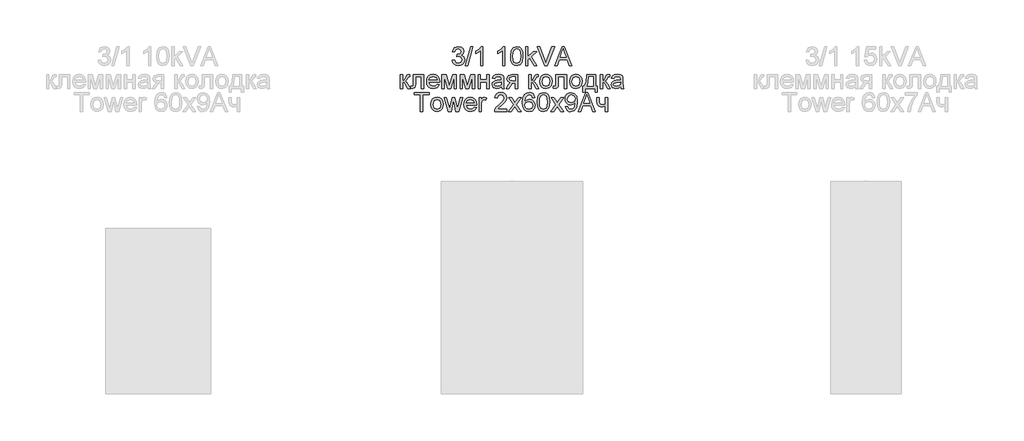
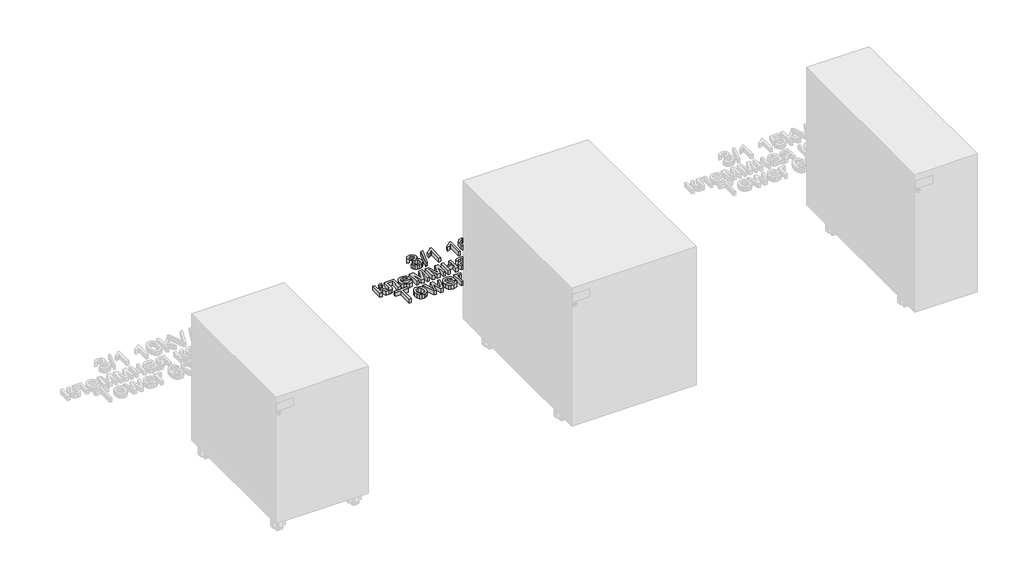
# One storey, part 36 of 74: 1 proxy.
"""IFC4 building model written with IfcOpenShell, lengths in millimetres."""

from ifc_helpers import new_model, si_unit, origin, origin_with_axes, place, context, project, spatial, polyline, outline, extrude, element, save

model = new_model("IFC4")

# Units and contexts
model_context = context("Model", 3, world=origin())
ifc_project = project(units=[si_unit("LENGTHUNIT", "METRE", prefix="MILLI")], contexts=[model_context])

# Site, building, storey
site = spatial("IfcSite", under=ifc_project)
building = spatial("IfcBuilding", under=site)
storey = spatial("IfcBuildingStorey", under=building, Name="Этаж 01", Elevation=0.0)

# Proxy
placement = place(None, origin())
element("IfcBuildingElementProxy", 1, Name="80 мм Arial", ObjectType="80 мм Arial", at=placement, inside=storey, context=model_context, shape_type="SweptSolid", body=[
    extrude(outline(polyline([(5598.3137414, -15105.2863601), (5608.3593724, -15104.0306562), (5613.9021278, -15114.6060373), (5624.2714949, -15117.8433988), (5636.475367, -15113.3895741), (5641.0076732, -15102.3629245), (5636.5146077, -15091.9739369), (5625.0955506, -15087.8634688), (5618.0518367, -15088.9622097), (5619.1701979, -15078.9165786), (5620.7790685, -15079.0343009), (5632.1785053, -15076.150106), (5637.2405615, -15067.2816974), (5633.5715518, -15059.423738), (5624.114532, -15056.3139089), (5614.5397899, -15059.4531685), (5609.6150762, -15068.8709476), (5599.5694452, -15067.6152437), (5607.7903816, -15051.8600842), (5623.7613652, -15046.2682778), (5635.8769456, -15049.0249403), (5644.3529468, -15056.5591635), (5647.2861926, -15066.6930862), (5644.5000996, -15075.9539023), (5636.2595429, -15082.6052088), (5647.2077111, -15089.4723394), (5651.0533042, -15102.5395078), (5649.1305076, -15112.330074), (5643.3621179, -15120.5117696), (5634.6555774, -15126.0447148), (5623.9183282, -15127.8890298), (5614.2062435, -15126.3144949), (5606.2992332, -15121.5908901), (5600.8006236, -15114.3656877), (5598.3137414, -15105.2863601)])), origin_with_axes(), (0.0, 0.0, 1.0), 20.0),
    extrude(outline(polyline([(5654.8204158, -15126.633326), (5677.4230856, -15046.2682778), (5686.487698, -15046.2682778), (5663.8850282, -15126.633326), (5654.8204158, -15126.633326)])), origin_with_axes(), (0.0, 0.0, 1.0), 20.0),
    extrude(outline(polyline([(5728.9069446, -15126.633326), (5718.8613135, -15126.633326), (5718.8613135, -15064.0050951), (5709.3454326, -15070.783934), (5698.7700515, -15075.8558004), (5698.7700515, -15066.3595399), (5713.4951415, -15056.9613812), (5722.4322214, -15046.2682778), (5728.9069446, -15046.2682778), (5728.9069446, -15126.633326)])), origin_with_axes(), (0.0, 0.0, 1.0), 20.0),
    extrude(outline(polyline([(5821.8290314, -15126.633326), (5811.7834004, -15126.633326), (5811.7834004, -15064.0050951), (5802.2675195, -15070.783934), (5791.6921384, -15075.8558004), (5791.6921384, -15066.3595399), (5806.4172284, -15056.9613812), (5815.3543083, -15046.2682778), (5821.8290314, -15046.2682778), (5821.8290314, -15126.633326)])), origin_with_axes(), (0.0, 0.0, 1.0), 20.0),
    extrude(outline(polyline([(5845.6874051, -15087.0982742), (5848.6402712, -15063.9756645), (5857.410578, -15050.643621), (5872.0571865, -15046.2682778), (5883.7901696, -15048.8581671), (5891.8933837, -15056.323719), (5896.6022732, -15068.2136651), (5898.4269679, -15087.0982742), (5895.5035323, -15110.122782), (5886.7626561, -15123.4842561), (5872.0571865, -15127.8890298), (5861.619148, -15125.9760435), (5853.6925173, -15120.2370843), (5847.6886832, -15106.6450709), (5845.6874051, -15087.0982742)]), holes=[polyline([(5855.7330361, -15087.0786538), (5856.9102585, -15102.8804118), (5860.4419257, -15112.0259582), (5872.0571865, -15117.8433988), (5883.6724474, -15112.0063378), (5887.2041145, -15102.8558863), (5888.3813369, -15087.0786538), (5887.2433553, -15071.6325151), (5883.8294104, -15062.4158449), (5878.5809606, -15057.8393929), (5871.9394643, -15056.3139089), (5860.5988886, -15061.6898911), (5856.9494992, -15071.4804572), (5855.7330361, -15087.0786538)])]), origin_with_axes(), (0.0, 0.0, 1.0), 20.0),
    extrude(outline(polyline([(5909.7283028, -15126.633326), (5909.7283028, -15046.2682778), (5919.7739338, -15046.2682778), (5919.7739338, -15089.452719), (5942.2981221, -15067.6152437), (5956.1893463, -15067.6152437), (5933.3904728, -15089.7274042), (5957.4450501, -15126.633326), (5945.712067, -15126.633326), (5926.1897958, -15096.712257), (5919.7739338, -15102.9319153), (5919.7739338, -15126.633326), (5909.7283028, -15126.633326)])), origin_with_axes(), (0.0, 0.0, 1.0), 20.0),
    extrude(outline(polyline([(6032.2182919, -15126.633326), (6064.2976019, -15046.2682778), (6072.8520846, -15046.2682778), (6104.9313946, -15126.633326), (6094.3167727, -15126.633326), (6085.1148177, -15101.5192484), (6052.0152484, -15101.5192484), (6042.8329138, -15126.633326), (6032.2182919, -15126.633326)]), holes=[polyline([(6055.7038785, -15091.4736174), (6081.445808, -15091.4736174), (6074.2058903, -15071.7159017), (6068.5748432, -15056.3139089), (6063.5716481, -15069.9893089), (6055.7038785, -15091.4736174)])]), origin_with_axes(), (0.0, 0.0, 1.0), 20.0),
    extrude(outline(polyline([(5991.2313326, -15126.633326), (5959.2501245, -15046.2682778), (5970.0020889, -15046.2682778), (5991.4079159, -15104.1679988), (5995.7440184, -15117.2155469), (6000.0212597, -15104.1679988), (6021.4859479, -15046.2682778), (6032.2379123, -15046.2682778), (6001.6105099, -15126.633326), (5991.2313326, -15126.633326)])), origin_with_axes(), (0.0, 0.0, 1.0), 20.0),
    extrude(outline(polyline([(5433.1886815, -15165.195098), (5478.3940211, -15165.195098), (5478.3940211, -15224.1543191), (5468.3483901, -15224.1543191), (5468.3483901, -15175.240729), (5443.2343126, -15175.240729), (5443.2343126, -15203.3959644), (5442.5574097, -15216.3846514), (5438.839349, -15221.8685457), (5430.0494219, -15224.2131802), (5421.8873467, -15223.7030505), (5421.8873467, -15214.1675492), (5426.3804121, -15214.1675492), (5430.9225285, -15213.5495075), (5432.737413, -15211.5874702), (5433.1886815, -15202.8269736), (5433.1886815, -15165.195098)])), origin_with_axes(), (0.0, 0.0, 1.0), 20.0),
    extrude(outline(polyline([(5379.1934148, -15165.195098), (5389.2390459, -15165.195098), (5389.2390459, -15190.3091756), (5395.9688338, -15188.5041012), (5401.4821587, -15177.9875813), (5406.0635158, -15168.9131587), (5410.1053126, -15165.9602926), (5417.4531423, -15165.195098), (5419.3759389, -15165.195098), (5419.3759389, -15175.2995902), (5416.6683274, -15175.240729), (5411.7632341, -15176.3002292), (5408.3100485, -15182.9122949), (5404.2584414, -15190.0639209), (5398.5783434, -15193.5661575), (5404.9157239, -15197.4755168), (5411.1353822, -15205.7111684), (5421.8873467, -15224.2131802), (5410.4682895, -15224.2131802), (5399.9321492, -15206.1035759), (5394.6346485, -15198.4418202), (5389.2390459, -15196.5876949), (5389.2390459, -15224.2131802), (5379.1934148, -15224.2131802), (5379.1934148, -15165.195098)])), origin_with_axes(), (0.0, 0.0, 1.0), 20.0),
    extrude(outline(polyline([(5534.7829733, -15206.633326), (5544.6324006, -15207.8890298), (5535.4206355, -15220.8580964), (5518.2626192, -15225.4688841), (5506.4756801, -15223.4798688), (5497.4061626, -15217.5128228), (5491.6230577, -15207.9552486), (5489.695356, -15195.1946485), (5491.642678, -15182.0048527), (5497.4846441, -15172.1407101), (5506.4315342, -15165.9897231), (5517.6936284, -15163.9393941), (5528.6050084, -15165.984818), (5537.3238116, -15172.1210897), (5543.0406979, -15181.9656119), (5544.9463266, -15195.1357873), (5544.8874655, -15197.8433988), (5499.740987, -15197.8433988), (5505.5191869, -15210.8909469), (5518.4588229, -15215.4232531), (5528.3082502, -15213.3238732), (5534.7829733, -15206.633326)]), holes=[polyline([(5499.740987, -15187.7977678), (5534.9006956, -15187.7977678), (5530.8785191, -15178.6939147), (5517.6543876, -15173.9850252), (5505.2837424, -15177.7423266), (5499.740987, -15187.7977678)])]), origin_with_axes(), (0.0, 0.0, 1.0), 20.0),
    extrude(outline(polyline([(5554.9919576, -15165.195098), (5572.2775063, -15165.195098), (5585.5997396, -15212.4409564), (5599.9618527, -15165.195098), (5616.5214476, -15165.195098), (5616.5214476, -15224.2131802), (5606.4758166, -15224.2131802), (5606.4758166, -15176.6926366), (5592.035222, -15224.2131802), (5578.8503313, -15224.2131802), (5565.0375886, -15174.4166734), (5565.0375886, -15224.2131802), (5554.9919576, -15224.2131802), (5554.9919576, -15165.195098)])), origin_with_axes(), (0.0, 0.0, 1.0), 20.0),
    extrude(outline(polyline([(5631.5898941, -15165.195098), (5648.8754428, -15165.195098), (5662.1976761, -15212.4409564), (5676.5597892, -15165.195098), (5693.1193841, -15165.195098), (5693.1193841, -15224.2131802), (5683.073753, -15224.2131802), (5683.073753, -15176.6926366), (5668.6331585, -15224.2131802), (5655.4482678, -15224.2131802), (5641.6355251, -15174.4166734), (5641.6355251, -15224.2131802), (5631.5898941, -15224.2131802), (5631.5898941, -15165.195098)])), origin_with_axes(), (0.0, 0.0, 1.0), 20.0),
    extrude(outline(polyline([(5708.1878306, -15165.195098), (5718.2334616, -15165.195098), (5718.2334616, -15187.7977678), (5744.603243, -15187.7977678), (5744.603243, -15165.195098), (5754.648874, -15165.195098), (5754.648874, -15224.2131802), (5744.603243, -15224.2131802), (5744.603243, -15197.8433988), (5718.2334616, -15197.8433988), (5718.2334616, -15224.2131802), (5708.1878306, -15224.2131802), (5708.1878306, -15165.195098)])), origin_with_axes(), (0.0, 0.0, 1.0), 20.0),
    extrude(outline(polyline([(5807.3884369, -15216.678957), (5797.6469216, -15223.4872264), (5786.885147, -15225.4688841), (5772.2973996, -15220.7011335), (5767.2059128, -15208.5168818), (5769.1287094, -15200.5706307), (5774.1809554, -15194.802241), (5781.2148592, -15191.5060183), (5789.9066844, -15189.9952496), (5807.3295757, -15186.5420639), (5807.3884369, -15184.3053414), (5804.6219643, -15176.8888404), (5793.5168331, -15173.9850252), (5783.3534798, -15175.9176319), (5778.5072477, -15182.7749523), (5768.4616167, -15181.5192484), (5772.8075293, -15171.7090619), (5781.5582157, -15165.9602926), (5794.8117777, -15163.9393941), (5806.9862192, -15165.7248481), (5813.86316, -15170.2081033), (5816.9435585, -15177.026183), (5817.4340679, -15185.8161101), (5817.4340679, -15198.3142878), (5817.9441976, -15215.7666096), (5819.9454756, -15224.2131802), (5809.8998446, -15224.2131802), (5807.3884369, -15216.678957)]), holes=[polyline([(5807.3884369, -15196.5876949), (5791.1820087, -15199.6680935), (5782.5392344, -15201.2965845), (5778.6249699, -15203.9453348), (5777.2515438, -15207.8105483), (5780.2436507, -15213.2453917), (5789.0237677, -15215.4232531), (5799.1871209, -15213.0197574), (5805.7403255, -15207.2023168), (5807.3295757, -15199.432649), (5807.3884369, -15196.5876949)])]), origin_with_axes(), (0.0, 0.0, 1.0), 20.0),
    extrude(outline(polyline([(5876.4521501, -15165.195098), (5876.4521501, -15224.2131802), (5866.4065191, -15224.2131802), (5866.4065191, -15201.6105105), (5860.932435, -15201.6105105), (5853.4766932, -15202.8858347), (5846.47222, -15211.4599377), (5838.4671078, -15224.2131802), (5826.8518469, -15224.2131802), (5836.9367187, -15208.0852336), (5845.4912014, -15199.7269546), (5833.797459, -15193.6250186), (5829.9911066, -15182.2452022), (5835.1905055, -15169.9236079), (5850.2393317, -15165.195098), (5876.4521501, -15165.195098)]), holes=[polyline([(5866.4065191, -15175.240729), (5853.1627672, -15175.240729), (5842.4402334, -15177.5657432), (5840.0367377, -15183.0103968), (5843.578215, -15189.4949301), (5856.1254436, -15191.5648794), (5866.4065191, -15191.5648794), (5866.4065191, -15175.240729)])]), origin_with_axes(), (0.0, 0.0, 1.0), 20.0),
    extrude(outline(polyline([(5922.9131935, -15165.195098), (5932.9588245, -15165.195098), (5932.9588245, -15190.3091756), (5939.6886125, -15188.5041012), (5945.2019373, -15177.9875813), (5949.7832945, -15168.9131587), (5953.8250913, -15165.9602926), (5961.172921, -15165.195098), (5963.0957176, -15165.195098), (5963.0957176, -15175.2995902), (5960.3881061, -15175.240729), (5955.4830128, -15176.3002292), (5952.0298272, -15182.9122949), (5947.9782201, -15190.0639209), (5942.2981221, -15193.5661575), (5948.6355026, -15197.4755168), (5954.8551609, -15205.7111684), (5965.6071253, -15224.2131802), (5954.1880682, -15224.2131802), (5943.6519279, -15206.1035759), (5938.3544271, -15198.4418202), (5932.9588245, -15196.5876949), (5932.9588245, -15224.2131802), (5922.9131935, -15224.2131802), (5922.9131935, -15165.195098)])), origin_with_axes(), (0.0, 0.0, 1.0), 20.0),
    extrude(outline(polyline([(5969.374237, -15194.7041391), (5971.5471933, -15180.4744636), (5978.0660622, -15170.4729784), (5986.1202254, -15165.5727902), (5995.7636388, -15163.9393941), (6006.3169469, -15165.9284095), (6014.7463497, -15171.8954554), (6020.2719373, -15181.3696431), (6022.1137998, -15193.8800835), (6018.8568179, -15211.7542433), (6009.3703675, -15221.8685457), (5995.7636388, -15225.4688841), (5985.0827982, -15223.4872264), (5976.6632056, -15217.5422534), (5971.1964791, -15207.8694095), (5969.374237, -15194.7041391)]), holes=[polyline([(5979.419868, -15194.6845188), (5984.0698964, -15210.2532848), (5995.7636388, -15215.4232531), (6007.4181404, -15210.2238542), (6012.0681688, -15194.3705928), (6007.3887098, -15179.1549935), (5995.7636388, -15173.9850252), (5984.0698964, -15179.1353731), (5979.419868, -15194.6845188)])]), origin_with_axes(), (0.0, 0.0, 1.0), 20.0),
    extrude(outline(polyline([(6038.4379502, -15165.195098), (6083.6432898, -15165.195098), (6083.6432898, -15224.1543191), (6073.5976588, -15224.1543191), (6073.5976588, -15175.240729), (6048.4835812, -15175.240729), (6048.4835812, -15203.3959644), (6047.8066783, -15216.3846514), (6044.0886176, -15221.8685457), (6035.2986905, -15224.2131802), (6027.1366153, -15223.7030505), (6027.1366153, -15214.1675492), (6031.6296807, -15214.1675492), (6036.1717971, -15213.5495075), (6037.9866816, -15211.5874702), (6038.4379502, -15202.8269736), (6038.4379502, -15165.195098)])), origin_with_axes(), (0.0, 0.0, 1.0), 20.0),
    extrude(outline(polyline([(6096.2003285, -15194.7041391), (6098.3732849, -15180.4744636), (6104.8921538, -15170.4729784), (6112.946317, -15165.5727902), (6122.5897303, -15163.9393941), (6133.1430385, -15165.9284095), (6141.5724413, -15171.8954554), (6147.0980288, -15181.3696431), (6148.9398914, -15193.8800835), (6145.6829094, -15211.7542433), (6136.1964591, -15221.8685457), (6122.5897303, -15225.4688841), (6111.9088897, -15223.4872264), (6103.4892971, -15217.5422534), (6098.0225707, -15207.8694095), (6096.2003285, -15194.7041391)]), holes=[polyline([(6106.2459596, -15194.6845188), (6110.895988, -15210.2532848), (6122.5897303, -15215.4232531), (6134.2442319, -15210.2238542), (6138.8942603, -15194.3705928), (6134.2148014, -15179.1549935), (6122.5897303, -15173.9850252), (6110.895988, -15179.1353731), (6106.2459596, -15194.6845188)])]), origin_with_axes(), (0.0, 0.0, 1.0), 20.0),
    extrude(outline(polyline([(6169.0311534, -15165.195098), (6206.7022697, -15165.195098), (6206.7022697, -15214.1675492), (6214.236493, -15214.1675492), (6214.236493, -15240.5373306), (6204.1908619, -15240.5373306), (6204.1908619, -15224.2131802), (6162.752634, -15224.2131802), (6162.752634, -15240.5373306), (6152.707003, -15240.5373306), (6152.707003, -15214.1675492), (6158.9855224, -15214.1675492), (6166.7453799, -15195.0082549), (6169.0311534, -15165.195098)]), holes=[polyline([(6177.8210805, -15175.240729), (6175.4666358, -15198.1278942), (6170.2868573, -15214.1675492), (6196.6566387, -15214.1675492), (6196.6566387, -15175.240729), (6177.8210805, -15175.240729)])]), origin_with_axes(), (0.0, 0.0, 1.0), 20.0),
    extrude(outline(polyline([(6225.5378279, -15165.195098), (6235.5834589, -15165.195098), (6235.5834589, -15190.3091756), (6242.3132468, -15188.5041012), (6247.8265717, -15177.9875813), (6252.4079288, -15168.9131587), (6256.4497256, -15165.9602926), (6263.7975554, -15165.195098), (6265.7203519, -15165.195098), (6265.7203519, -15175.2995902), (6263.0127404, -15175.240729), (6258.1076472, -15176.3002292), (6254.6544615, -15182.9122949), (6250.6028545, -15190.0639209), (6244.9227565, -15193.5661575), (6251.260137, -15197.4755168), (6257.4797952, -15205.7111684), (6268.2317597, -15224.2131802), (6256.8127025, -15224.2131802), (6246.2765622, -15206.1035759), (6240.9790615, -15198.4418202), (6235.5834589, -15196.5876949), (6235.5834589, -15224.2131802), (6225.5378279, -15224.2131802), (6225.5378279, -15165.195098)])), origin_with_axes(), (0.0, 0.0, 1.0), 20.0),
    extrude(outline(polyline([(6312.1813954, -15216.678957), (6302.4398801, -15223.4872264), (6291.6781055, -15225.4688841), (6277.0903581, -15220.7011335), (6271.9988713, -15208.5168818), (6273.9216679, -15200.5706307), (6278.9739139, -15194.802241), (6286.0078177, -15191.5060183), (6294.6996429, -15189.9952496), (6312.1225342, -15186.5420639), (6312.1813954, -15184.3053414), (6309.4149228, -15176.8888404), (6298.3097916, -15173.9850252), (6288.1464383, -15175.9176319), (6283.3002062, -15182.7749523), (6273.2545752, -15181.5192484), (6277.6004878, -15171.7090619), (6286.3511742, -15165.9602926), (6299.6047362, -15163.9393941), (6311.7791777, -15165.7248481), (6318.6561185, -15170.2081033), (6321.736517, -15177.026183), (6322.2270264, -15185.8161101), (6322.2270264, -15198.3142878), (6322.7371561, -15215.7666096), (6324.7384341, -15224.2131802), (6314.6928031, -15224.2131802), (6312.1813954, -15216.678957)]), holes=[polyline([(6312.1813954, -15196.5876949), (6295.9749672, -15199.6680935), (6287.3321929, -15201.2965845), (6283.4179284, -15203.9453348), (6282.0445023, -15207.8105483), (6285.0366092, -15213.2453917), (6293.8167262, -15215.4232531), (6303.9800794, -15213.0197574), (6310.533284, -15207.2023168), (6312.1225342, -15199.432649), (6312.1813954, -15196.5876949)])]), origin_with_axes(), (0.0, 0.0, 1.0), 20.0),
    extrude(outline(polyline([(5463.9534265, -15321.7930345), (5463.9534265, -15251.4736174), (5437.5836451, -15251.4736174), (5437.5836451, -15241.4279864), (5500.368839, -15241.4279864), (5500.368839, -15251.4736174), (5473.9990575, -15251.4736174), (5473.9990575, -15321.7930345), (5463.9534265, -15321.7930345)])), origin_with_axes(), (0.0, 0.0, 1.0), 20.0),
    extrude(outline(polyline([(5507.9030622, -15292.2839934), (5510.0760185, -15278.0543178), (5516.5948875, -15268.0528327), (5524.6490506, -15263.1526445), (5534.292464, -15261.5192484), (5544.8457722, -15263.5082637), (5553.275175, -15269.4753097), (5558.8007625, -15278.9494974), (5560.6426251, -15291.4599377), (5557.3856431, -15309.3340976), (5547.8991927, -15319.4483999), (5534.292464, -15323.0487384), (5523.6116234, -15321.0670807), (5515.1920308, -15315.1221077), (5509.7253044, -15305.4492637), (5507.9030622, -15292.2839934)]), holes=[polyline([(5517.9486932, -15292.264373), (5522.5987217, -15307.8331391), (5534.292464, -15313.0031074), (5545.9469656, -15307.8037085), (5550.596994, -15291.9504471), (5545.9175351, -15276.7348477), (5534.292464, -15271.5648794), (5522.5987217, -15276.7152274), (5517.9486932, -15292.264373)])]), origin_with_axes(), (0.0, 0.0, 1.0), 20.0),
    extrude(outline(polyline([(5581.7345261, -15321.7930345), (5563.7818847, -15262.7749523), (5574.2199232, -15262.7749523), (5584.4028968, -15297.208707), (5587.4440547, -15309.510681), (5589.9358421, -15297.6599756), (5598.0390561, -15262.7749523), (5610.0074837, -15262.7749523), (5618.071457, -15297.5618738), (5620.2885592, -15308.2942178), (5623.4670596, -15296.9732626), (5633.6696536, -15262.7749523), (5644.1469329, -15262.7749523), (5626.0569489, -15321.7930345), (5613.911938, -15321.7930345), (5606.2011313, -15287.1826964), (5603.9644088, -15276.3914912), (5594.0168797, -15321.7930345), (5581.7345261, -15321.7930345)])), origin_with_axes(), (0.0, 0.0, 1.0), 20.0),
    extrude(outline(polyline([(5692.3738099, -15304.2131802), (5702.2232372, -15305.4688841), (5693.011472, -15318.4379507), (5675.8534558, -15323.0487384), (5664.0665166, -15321.0597231), (5654.9969992, -15315.0926771), (5649.2138942, -15305.5351029), (5647.2861926, -15292.7745027), (5649.2335146, -15279.5847069), (5655.0754807, -15269.7205644), (5664.0223708, -15263.5695774), (5675.2844649, -15261.5192484), (5686.1958449, -15263.5646723), (5694.9146482, -15269.700944), (5700.6315344, -15279.5454662), (5702.5371631, -15292.7156416), (5702.478302, -15295.4232531), (5657.3318236, -15295.4232531), (5663.1100234, -15308.4708012), (5676.0496595, -15313.0031074), (5685.8990868, -15310.9037275), (5692.3738099, -15304.2131802)]), holes=[polyline([(5657.3318236, -15285.3776221), (5692.4915321, -15285.3776221), (5688.4693556, -15276.273769), (5675.2452242, -15271.5648794), (5662.874579, -15275.3221809), (5657.3318236, -15285.3776221)])]), origin_with_axes(), (0.0, 0.0, 1.0), 20.0),
    extrude(outline(polyline([(5712.5827942, -15321.7930345), (5712.5827942, -15262.7749523), (5721.3727213, -15262.7749523), (5721.3727213, -15271.5060183), (5727.6119999, -15263.4616654), (5733.8905193, -15261.5192484), (5743.9753911, -15264.6192674), (5740.6203073, -15273.6250186), (5733.556973, -15271.5648794), (5727.876875, -15273.5465371), (5724.2569161, -15279.0402416), (5722.6284252, -15290.7732247), (5722.6284252, -15321.7930345), (5712.5827942, -15321.7930345)])), origin_with_axes(), (0.0, 0.0, 1.0), 20.0),
    extrude(outline(polyline([(5830.6189586, -15311.7474035), (5830.6189586, -15321.7930345), (5777.8793957, -15321.7930345), (5778.9585163, -15314.8670428), (5785.0604523, -15304.2033701), (5797.6371114, -15292.5586786), (5814.9815212, -15275.8225004), (5819.3176237, -15264.442684), (5815.2267759, -15255.2309189), (5804.5434828, -15251.4736174), (5793.408921, -15255.1426272), (5789.1807306, -15265.2863601), (5779.1350996, -15264.0306562), (5781.5704784, -15254.3136664), (5786.8360961, -15247.2159965), (5794.6572673, -15242.8749889), (5804.7593069, -15241.4279864), (5814.9349228, -15243.036857), (5822.7413788, -15247.8634688), (5827.7077857, -15255.0739559), (5829.3632547, -15263.8344524), (5827.5778008, -15273.3601436), (5821.6426379, -15283.2095709), (5807.2510942, -15296.9732626), (5795.6946945, -15306.6362963), (5791.1623883, -15311.7474035), (5830.6189586, -15311.7474035)])), origin_with_axes(), (0.0, 0.0, 1.0), 20.0),
    extrude(outline(polyline([(5836.897478, -15321.7930345), (5858.3621661, -15292.1270304), (5838.1531818, -15262.7749523), (5850.2393317, -15262.7749523), (5859.9906571, -15276.9016209), (5864.5425836, -15283.5725478), (5868.4862786, -15278.118084), (5879.5914098, -15262.7749523), (5891.6775596, -15262.7749523), (5870.4483159, -15292.1270304), (5890.8927447, -15321.7930345), (5878.8065949, -15321.7930345), (5866.5046209, -15303.9581154), (5864.248278, -15300.7011335), (5848.9836278, -15321.7930345), (5836.897478, -15321.7930345)])), origin_with_axes(), (0.0, 0.0, 1.0), 20.0),
    extrude(outline(polyline([(5948.655123, -15262.7749523), (5938.609492, -15264.0306562), (5934.8031396, -15255.6527569), (5924.7378882, -15251.4736174), (5915.6732759, -15253.9065437), (5908.8159555, -15263.0398273), (5905.9611912, -15280.9434178), (5914.8197896, -15272.9284954), (5925.7973884, -15270.3091756), (5935.0778248, -15272.0995346), (5942.8671129, -15277.4706117), (5948.1498984, -15285.6768328), (5949.9108269, -15295.9726235), (5946.5949838, -15309.8344171), (5937.4715103, -15319.6446037), (5924.30624, -15323.0487384), (5912.9092558, -15320.7923955), (5903.8323807, -15314.0233668), (5897.8947653, -15302.0745596), (5895.9155602, -15284.2788812), (5898.113042, -15264.2710057), (5904.7054873, -15250.5907006), (5913.7063335, -15243.7186649), (5925.3657402, -15241.4279864), (5934.1801928, -15242.8455583), (5941.238622, -15247.0982742), (5948.655123, -15262.7749523)]), holes=[polyline([(5905.9611912, -15295.8156606), (5908.2862054, -15304.517296), (5914.4666229, -15310.8350561), (5923.5214251, -15313.0031074), (5935.3623202, -15308.5100419), (5939.8651959, -15296.3061699), (5935.4211814, -15284.6222377), (5923.1093973, -15280.3548066), (5910.9545761, -15284.6222377), (5905.9611912, -15295.8156606)])]), origin_with_axes(), (0.0, 0.0, 1.0), 20.0),
    extrude(outline(polyline([(5958.700754, -15282.2579828), (5961.6536202, -15259.1353731), (5970.4239269, -15245.8033296), (5985.0705354, -15241.4279864), (5996.8035185, -15244.0178756), (6004.9067326, -15251.4834276), (6009.6156222, -15263.3733737), (6011.4403168, -15282.2579828), (6008.5168813, -15305.2824906), (5999.7760051, -15318.6439646), (5985.0705354, -15323.0487384), (5974.632497, -15321.135752), (5966.7058662, -15315.3967929), (5960.7020321, -15301.8047794), (5958.700754, -15282.2579828)]), holes=[polyline([(5968.746385, -15282.2383624), (5969.9236074, -15298.0401204), (5973.4552746, -15307.1856668), (5985.0705354, -15313.0031074), (5996.6857963, -15307.1660464), (6000.2174634, -15298.0155949), (6001.3946858, -15282.2383624), (6000.2567042, -15266.7922237), (5996.8427593, -15257.5755534), (5991.5943095, -15252.9991014), (5984.9528132, -15251.4736174), (5973.6122376, -15256.8495996), (5969.9628482, -15266.6401658), (5968.746385, -15282.2383624)])]), origin_with_axes(), (0.0, 0.0, 1.0), 20.0),
    extrude(outline(polyline([(6016.4631324, -15321.7930345), (6037.9278205, -15292.1270304), (6017.7188362, -15262.7749523), (6029.804986, -15262.7749523), (6039.5563115, -15276.9016209), (6044.108238, -15283.5725478), (6048.051933, -15278.118084), (6059.1570642, -15262.7749523), (6071.243214, -15262.7749523), (6050.0139703, -15292.1270304), (6070.4583991, -15321.7930345), (6058.3722492, -15321.7930345), (6046.0702753, -15303.9581154), (6043.8139324, -15300.7011335), (6028.5492822, -15321.7930345), (6016.4631324, -15321.7930345)])), origin_with_axes(), (0.0, 0.0, 1.0), 20.0),
    extrude(outline(polyline([(6077.9926223, -15301.7017725), (6088.0382533, -15300.4460686), (6092.5509391, -15310.0306209), (6101.1054218, -15313.0031074), (6109.2380664, -15311.090121), (6114.7513913, -15305.9790138), (6118.0378038, -15297.2479478), (6119.4897114, -15285.5934462), (6119.4308503, -15283.6314089), (6111.3963075, -15291.2441136), (6100.379468, -15294.1675492), (6091.2192063, -15292.3820953), (6083.5942388, -15287.0257334), (6078.4512485, -15278.7508411), (6076.7369184, -15268.2097956), (6078.5346351, -15257.3204886), (6083.9277852, -15248.7856263), (6092.0285467, -15243.2673964), (6101.9490978, -15241.4279864), (6116.26216, -15245.6267462), (6126.1115873, -15257.5951738), (6129.4764813, -15280.0801214), (6126.1213975, -15304.4780553), (6116.1444378, -15318.3006081), (6100.6345329, -15323.0487384), (6092.0457145, -15321.6483343), (6085.1932992, -15317.4471219), (6077.9926223, -15301.7017725)]), holes=[polyline([(6119.4308503, -15267.9743512), (6115.0947478, -15255.9274421), (6103.5775888, -15251.4736174), (6091.491439, -15256.2707986), (6086.7825495, -15268.700305), (6091.2363741, -15279.8348667), (6103.3029036, -15284.1219182), (6114.8887339, -15279.8348667), (6119.4308503, -15267.9743512)])]), origin_with_axes(), (0.0, 0.0, 1.0), 20.0),
    extrude(outline(polyline([(6132.6746021, -15321.7930345), (6164.7539121, -15241.4279864), (6173.3083947, -15241.4279864), (6205.3877047, -15321.7930345), (6194.7730829, -15321.7930345), (6185.5711279, -15296.678957), (6152.4715585, -15296.678957), (6143.2892239, -15321.7930345), (6132.6746021, -15321.7930345)]), holes=[polyline([(6156.1601887, -15286.633326), (6181.9021181, -15286.633326), (6174.6622005, -15266.8756103), (6169.0311534, -15251.4736174), (6164.0279583, -15265.1490174), (6156.1601887, -15286.633326)])]), origin_with_axes(), (0.0, 0.0, 1.0), 20.0),
    extrude(outline(polyline([(6211.0972333, -15262.7749523), (6221.1428643, -15262.7749523), (6221.1428643, -15274.0959076), (6221.9571098, -15284.7105294), (6225.8713742, -15290.4592987), (6233.6410419, -15292.9118453), (6247.5126457, -15289.8706875), (6247.5126457, -15262.7749523), (6257.5582767, -15262.7749523), (6257.5582767, -15321.7930345), (6247.5126457, -15321.7930345), (6247.5126457, -15299.5042907), (6230.9530508, -15302.9574764), (6219.5634243, -15299.3571379), (6212.8630668, -15290.5377802), (6211.0972333, -15279.059862), (6211.0972333, -15262.7749523)])), origin_with_axes(), (0.0, 0.0, 1.0), 20.0),
])

save(model, "model.ifc")
